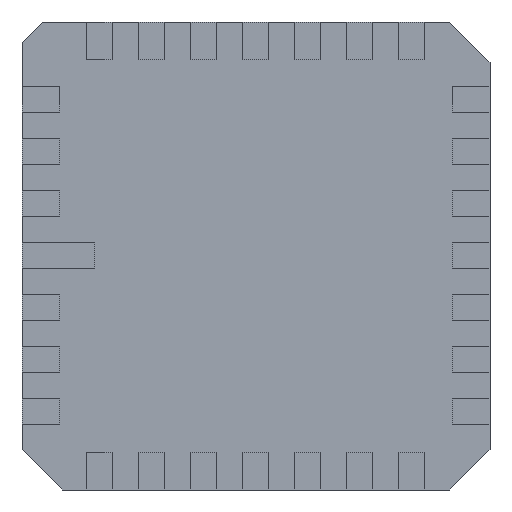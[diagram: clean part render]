
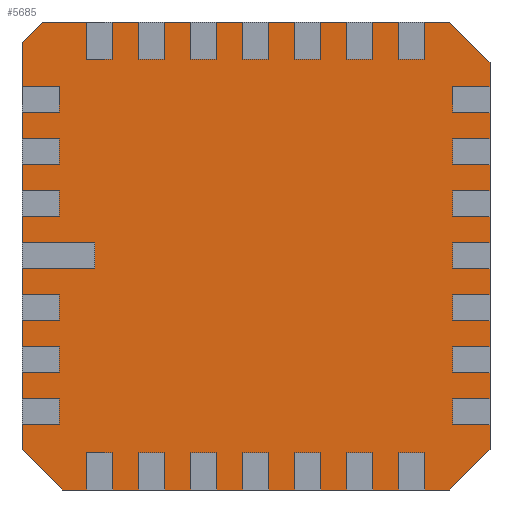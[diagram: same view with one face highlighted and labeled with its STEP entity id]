
A CAD part, front view. The second image highlights one B-rep face of the part: STEP entity #5685.
In plain terms, the highlighted planar face has unit normal (0, -1, 0).
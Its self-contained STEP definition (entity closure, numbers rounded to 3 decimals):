
#5526 = CARTESIAN_POINT ( 'NONE',  ( 5.715, 0.05, 4.715 ) ) ;
#5527 = VERTEX_POINT ( 'NONE', #5526 ) ;
#5528 = CARTESIAN_POINT ( 'NONE',  ( 5.715, 0.05, -4.715 ) ) ;
#5529 = VERTEX_POINT ( 'NONE', #5528 ) ;
#5530 = CARTESIAN_POINT ( 'NONE',  ( 5.715, 0.05, 5.715 ) ) ;
#5531 = DIRECTION ( 'NONE',  ( 0., 0., -1. ) ) ;
#5532 = VECTOR ( 'NONE', #5531, 1000. ) ;
#5533 = LINE ( 'NONE', #5530, #5532 ) ;
#5534 = EDGE_CURVE ( 'NONE', #5527, #5529, #5533, .T. ) ;
#5557 = CARTESIAN_POINT ( 'NONE',  ( 4.715, 0.05, -5.715 ) ) ;
#5558 = VERTEX_POINT ( 'NONE', #5557 ) ;
#5559 = CARTESIAN_POINT ( 'NONE',  ( -4.715, 0.05, -5.715 ) ) ;
#5560 = VERTEX_POINT ( 'NONE', #5559 ) ;
#5561 = CARTESIAN_POINT ( 'NONE',  ( -5.715, 0.05, -5.715 ) ) ;
#5562 = DIRECTION ( 'NONE',  ( -1., 0., 0. ) ) ;
#5563 = VECTOR ( 'NONE', #5562, 1000. ) ;
#5564 = LINE ( 'NONE', #5561, #5563 ) ;
#5565 = EDGE_CURVE ( 'NONE', #5558, #5560, #5564, .T. ) ;
#5588 = CARTESIAN_POINT ( 'NONE',  ( -5.715, 0.05, -4.715 ) ) ;
#5589 = VERTEX_POINT ( 'NONE', #5588 ) ;
#5590 = CARTESIAN_POINT ( 'NONE',  ( -5.715, 0.05, 5.215 ) ) ;
#5591 = VERTEX_POINT ( 'NONE', #5590 ) ;
#5592 = CARTESIAN_POINT ( 'NONE',  ( -5.715, 0.05, 5.715 ) ) ;
#5593 = DIRECTION ( 'NONE',  ( 0., 0., 1. ) ) ;
#5594 = VECTOR ( 'NONE', #5593, 1000. ) ;
#5595 = LINE ( 'NONE', #5592, #5594 ) ;
#5596 = EDGE_CURVE ( 'NONE', #5589, #5591, #5595, .T. ) ;
#5620 = CARTESIAN_POINT ( 'NONE',  ( -5.215, 0.05, 5.715 ) ) ;
#5621 = VERTEX_POINT ( 'NONE', #5620 ) ;
#5628 = CARTESIAN_POINT ( 'NONE',  ( 4.715, 0.05, 5.715 ) ) ;
#5629 = VERTEX_POINT ( 'NONE', #5628 ) ;
#5630 = CARTESIAN_POINT ( 'NONE',  ( -5.715, 0.05, 5.715 ) ) ;
#5631 = DIRECTION ( 'NONE',  ( 1., 0., 0. ) ) ;
#5632 = VECTOR ( 'NONE', #5631, 1000. ) ;
#5633 = LINE ( 'NONE', #5630, #5632 ) ;
#5634 = EDGE_CURVE ( 'NONE', #5621, #5629, #5633, .T. ) ;
#5650 = ORIENTED_EDGE ( 'NONE', *, *, #5634, .F. ) ;
#5651 = CARTESIAN_POINT ( 'NONE',  ( -5.465, 0.05, 5.465 ) ) ;
#5652 = DIRECTION ( 'NONE',  ( -0.707, 0., -0.707 ) ) ;
#5653 = VECTOR ( 'NONE', #5652, 1000. ) ;
#5654 = LINE ( 'NONE', #5651, #5653 ) ;
#5655 = EDGE_CURVE ( 'NONE', #5621, #5591, #5654, .T. ) ;
#5656 = ORIENTED_EDGE ( 'NONE', *, *, #5655, .T. ) ;
#5657 = ORIENTED_EDGE ( 'NONE', *, *, #5596, .F. ) ;
#5658 = CARTESIAN_POINT ( 'NONE',  ( -5.215, 0.05, -5.215 ) ) ;
#5659 = DIRECTION ( 'NONE',  ( 0.707, 0., -0.707 ) ) ;
#5660 = VECTOR ( 'NONE', #5659, 1000. ) ;
#5661 = LINE ( 'NONE', #5658, #5660 ) ;
#5662 = EDGE_CURVE ( 'NONE', #5589, #5560, #5661, .T. ) ;
#5663 = ORIENTED_EDGE ( 'NONE', *, *, #5662, .T. ) ;
#5664 = ORIENTED_EDGE ( 'NONE', *, *, #5565, .F. ) ;
#5665 = CARTESIAN_POINT ( 'NONE',  ( 5.215, 0.05, -5.215 ) ) ;
#5666 = DIRECTION ( 'NONE',  ( 0.707, 0., 0.707 ) ) ;
#5667 = VECTOR ( 'NONE', #5666, 1000. ) ;
#5668 = LINE ( 'NONE', #5665, #5667 ) ;
#5669 = EDGE_CURVE ( 'NONE', #5558, #5529, #5668, .T. ) ;
#5670 = ORIENTED_EDGE ( 'NONE', *, *, #5669, .T. ) ;
#5671 = ORIENTED_EDGE ( 'NONE', *, *, #5534, .F. ) ;
#5672 = CARTESIAN_POINT ( 'NONE',  ( 5.215, 0.05, 5.215 ) ) ;
#5673 = DIRECTION ( 'NONE',  ( -0.707, 0., 0.707 ) ) ;
#5674 = VECTOR ( 'NONE', #5673, 1000. ) ;
#5675 = LINE ( 'NONE', #5672, #5674 ) ;
#5676 = EDGE_CURVE ( 'NONE', #5527, #5629, #5675, .T. ) ;
#5677 = ORIENTED_EDGE ( 'NONE', *, *, #5676, .T. ) ;
#5678 = EDGE_LOOP ( 'NONE', ( #5650, #5656, #5657, #5663, #5664, #5670, #5671, #5677 ) ) ;
#5679 = FACE_OUTER_BOUND ( 'NONE', #5678, .T. ) ;
#5680 = CARTESIAN_POINT ( 'NONE',  ( 0., 0.05, 0. ) ) ;
#5681 = DIRECTION ( 'NONE',  ( 0., -1., 0. ) ) ;
#5682 = DIRECTION ( 'NONE',  ( 0., 0., -1. ) ) ;
#5683 = AXIS2_PLACEMENT_3D ( 'NONE', #5680, #5681, #5682 ) ;
#5684 = PLANE ( 'NONE', #5683 ) ;
#5685 = ADVANCED_FACE ( 'NONE', ( #5679 ), #5684, .T. ) ;
